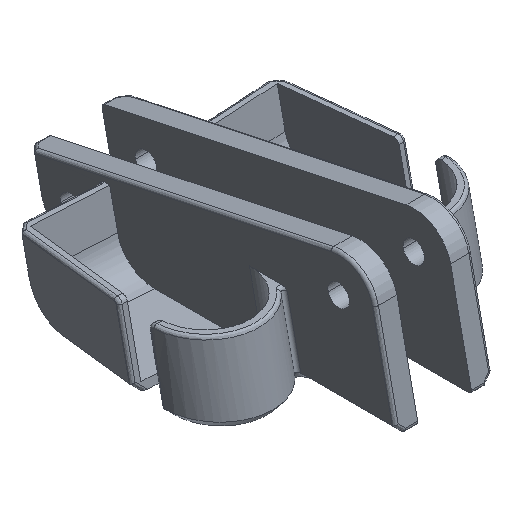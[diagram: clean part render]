
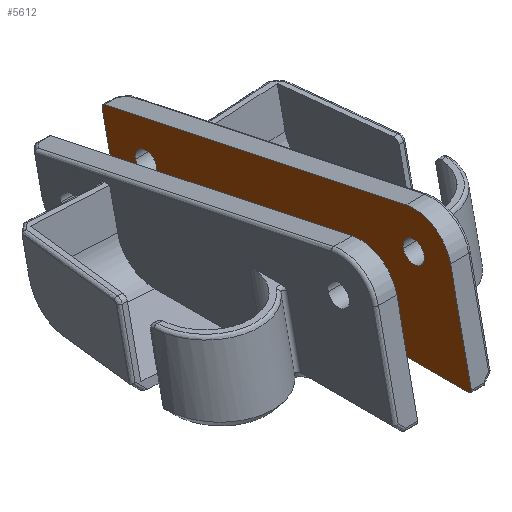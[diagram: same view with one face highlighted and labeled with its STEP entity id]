
A CAD part, isometric view. The second image highlights one B-rep face of the part: STEP entity #5612.
In plain terms, the highlighted planar face has unit normal (-1, 0, 0).
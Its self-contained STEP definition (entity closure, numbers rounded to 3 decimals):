
#95 = CARTESIAN_POINT ( 'NONE',  ( 5., -30.459, 0. ) ) ;
#166 = VERTEX_POINT ( 'NONE', #4388 ) ;
#255 = LINE ( 'NONE', #1095, #5118 ) ;
#261 = EDGE_CURVE ( 'NONE', #280, #3705, #5862, .T. ) ;
#280 = VERTEX_POINT ( 'NONE', #4541 ) ;
#313 = EDGE_CURVE ( 'NONE', #2772, #4215, #974, .T. ) ;
#343 = VERTEX_POINT ( 'NONE', #3943 ) ;
#377 = FACE_OUTER_BOUND ( 'NONE', #1346, .T. ) ;
#387 = CARTESIAN_POINT ( 'NONE',  ( 5., 27.888, 7.415 ) ) ;
#460 = CIRCLE ( 'NONE', #5196, 2. ) ;
#496 = CARTESIAN_POINT ( 'NONE',  ( 5., -30.297, 0. ) ) ;
#604 = DIRECTION ( 'NONE',  ( 0., 0.978, -0.208 ) ) ;
#614 = DIRECTION ( 'NONE',  ( 1., 0., 0. ) ) ;
#647 = ORIENTED_EDGE ( 'NONE', *, *, #3650, .T. ) ;
#648 = CARTESIAN_POINT ( 'NONE',  ( 5., 20.319, -71.612 ) ) ;
#652 = CARTESIAN_POINT ( 'NONE',  ( 5., 37.744, 12.48 ) ) ;
#700 = CARTESIAN_POINT ( 'NONE',  ( 5., 20.319, -71.612 ) ) ;
#800 = CARTESIAN_POINT ( 'NONE',  ( 5., 37.863, 12.397 ) ) ;
#953 = LINE ( 'NONE', #4380, #1885 ) ;
#974 = CIRCLE ( 'NONE', #1043, 2. ) ;
#1025 = CARTESIAN_POINT ( 'NONE',  ( 5., -30.297, 0. ) ) ;
#1029 = EDGE_CURVE ( 'NONE', #5134, #2914, #2764, .T. ) ;
#1043 = AXIS2_PLACEMENT_3D ( 'NONE', #5311, #2560, #5769 ) ;
#1085 = DIRECTION ( 'NONE',  ( 0., -0.978, 0.208 ) ) ;
#1095 = CARTESIAN_POINT ( 'NONE',  ( 5., 38.145, 12.394 ) ) ;
#1186 = EDGE_CURVE ( 'NONE', #3556, #4050, #4919, .T. ) ;
#1226 = EDGE_CURVE ( 'NONE', #4215, #2772, #2317, .T. ) ;
#1245 = CIRCLE ( 'NONE', #4522, 7. ) ;
#1246 = CARTESIAN_POINT ( 'NONE',  ( 5., 38.06, 11.995 ) ) ;
#1323 = ORIENTED_EDGE ( 'NONE', *, *, #1029, .T. ) ;
#1346 = EDGE_LOOP ( 'NONE', ( #4234, #5498, #647, #1565, #1706, #1603, #2155, #3417 ) ) ;
#1367 = EDGE_CURVE ( 'NONE', #166, #3134, #255, .T. ) ;
#1478 = CARTESIAN_POINT ( 'NONE',  ( 5., -30.835, 0.46 ) ) ;
#1516 = VECTOR ( 'NONE', #4762, 1000. ) ;
#1565 = ORIENTED_EDGE ( 'NONE', *, *, #2053, .T. ) ;
#1566 = DIRECTION ( 'NONE',  ( -1., 0., 0. ) ) ;
#1578 = FACE_BOUND ( 'NONE', #5356, .T. ) ;
#1603 = ORIENTED_EDGE ( 'NONE', *, *, #5226, .T. ) ;
#1614 = AXIS2_PLACEMENT_3D ( 'NONE', #3367, #614, #3813 ) ;
#1706 = ORIENTED_EDGE ( 'NONE', *, *, #1367, .T. ) ;
#1777 = CARTESIAN_POINT ( 'NONE',  ( 5., 29.845, 7. ) ) ;
#1805 = EDGE_CURVE ( 'NONE', #2914, #5134, #460, .T. ) ;
#1885 = VECTOR ( 'NONE', #5198, 1000. ) ;
#1899 = CARTESIAN_POINT ( 'NONE',  ( 5., 20.319, 0. ) ) ;
#2053 = EDGE_CURVE ( 'NONE', #2186, #166, #1245, .T. ) ;
#2090 = PLANE ( 'NONE',  #5958 ) ;
#2155 = ORIENTED_EDGE ( 'NONE', *, *, #4035, .F. ) ;
#2186 = VERTEX_POINT ( 'NONE', #5843 ) ;
#2230 = DIRECTION ( 'NONE',  ( 0., -0.978, 0.208 ) ) ;
#2282 = CARTESIAN_POINT ( 'NONE',  ( 5., -30.593, 0.064 ) ) ;
#2317 = CIRCLE ( 'NONE', #1614, 2. ) ;
#2392 = DIRECTION ( 'NONE',  ( 1., 0., 0. ) ) ;
#2543 = DIRECTION ( 'NONE',  ( 1., 0., 0. ) ) ;
#2560 = DIRECTION ( 'NONE',  ( 1., 0., 0. ) ) ;
#2764 = CIRCLE ( 'NONE', #3883, 2. ) ;
#2772 = VERTEX_POINT ( 'NONE', #4182 ) ;
#2789 = ORIENTED_EDGE ( 'NONE', *, *, #313, .T. ) ;
#2810 = CARTESIAN_POINT ( 'NONE',  ( 5., 29.845, 7. ) ) ;
#2914 = VERTEX_POINT ( 'NONE', #387 ) ;
#2972 = LINE ( 'NONE', #1899, #5392 ) ;
#3093 = CARTESIAN_POINT ( 'NONE',  ( 5., 37.592, 12.512 ) ) ;
#3134 = VERTEX_POINT ( 'NONE', #5344 ) ;
#3367 = CARTESIAN_POINT ( 'NONE',  ( 5., -20.045, 17.587 ) ) ;
#3417 = ORIENTED_EDGE ( 'NONE', *, *, #261, .T. ) ;
#3454 = CARTESIAN_POINT ( 'NONE',  ( 5., -20.045, 17.587 ) ) ;
#3556 = VERTEX_POINT ( 'NONE', #496 ) ;
#3650 = EDGE_CURVE ( 'NONE', #4050, #2186, #953, .T. ) ;
#3705 = VERTEX_POINT ( 'NONE', #5829 ) ;
#3813 = DIRECTION ( 'NONE',  ( 0., -0.978, 0.208 ) ) ;
#3856 = DIRECTION ( 'NONE',  ( -1., 0., 0. ) ) ;
#3883 = AXIS2_PLACEMENT_3D ( 'NONE', #1777, #4968, #2230 ) ;
#3900 = EDGE_LOOP ( 'NONE', ( #5732, #2789 ) ) ;
#3943 = CARTESIAN_POINT ( 'NONE',  ( 5., 38.028, 11.841 ) ) ;
#3966 = LINE ( 'NONE', #648, #1516 ) ;
#3997 = CARTESIAN_POINT ( 'NONE',  ( 5., 38.034, 12.137 ) ) ;
#4024 = FACE_BOUND ( 'NONE', #3900, .T. ) ;
#4035 = EDGE_CURVE ( 'NONE', #280, #343, #3966, .T. ) ;
#4050 = VERTEX_POINT ( 'NONE', #5239 ) ;
#4182 = CARTESIAN_POINT ( 'NONE',  ( 5., -18.088, 17.172 ) ) ;
#4215 = VERTEX_POINT ( 'NONE', #5778 ) ;
#4225 = AXIS2_PLACEMENT_3D ( 'NONE', #2810, #1566, #4771 ) ;
#4231 = CARTESIAN_POINT ( 'NONE',  ( 5., -30.8, 0.317 ) ) ;
#4234 = ORIENTED_EDGE ( 'NONE', *, *, #4381, .F. ) ;
#4380 = CARTESIAN_POINT ( 'NONE',  ( 5., -43.266, -58.12 ) ) ;
#4381 = EDGE_CURVE ( 'NONE', #3556, #3705, #2972, .T. ) ;
#4388 = CARTESIAN_POINT ( 'NONE',  ( 5., -18.591, 24.434 ) ) ;
#4455 = CARTESIAN_POINT ( 'NONE',  ( 5., 38.028, 11.841 ) ) ;
#4522 = AXIS2_PLACEMENT_3D ( 'NONE', #3454, #3856, #1085 ) ;
#4541 = CARTESIAN_POINT ( 'NONE',  ( 5., 36.692, 5.547 ) ) ;
#4693 = CARTESIAN_POINT ( 'NONE',  ( 5., -30.8, 0.622 ) ) ;
#4762 = DIRECTION ( 'NONE',  ( 0., 0.208, 0.978 ) ) ;
#4771 = DIRECTION ( 'NONE',  ( 0., -0.978, 0.208 ) ) ;
#4830 = B_SPLINE_CURVE_WITH_KNOTS ( 'NONE', 3,
 ( #3093, #652, #800, #3997, #1246, #4455 ),
 .UNSPECIFIED., .F., .F.,
 ( 4, 2, 4 ),
 ( 0., 0.5, 1. ),
 .UNSPECIFIED. ) ;
#4919 = B_SPLINE_CURVE_WITH_KNOTS ( 'NONE', 3,
 ( #1025, #95, #2282, #4231, #1478, #4693 ),
 .UNSPECIFIED., .F., .F.,
 ( 4, 2, 4 ),
 ( 0., 0.5, 1. ),
 .UNSPECIFIED. ) ;
#4968 = DIRECTION ( 'NONE',  ( 1., 0., 0. ) ) ;
#5118 = VECTOR ( 'NONE', #604, 1000. ) ;
#5134 = VERTEX_POINT ( 'NONE', #5641 ) ;
#5143 = CARTESIAN_POINT ( 'NONE',  ( 5., 29.845, 7. ) ) ;
#5196 = AXIS2_PLACEMENT_3D ( 'NONE', #5143, #2392, #5610 ) ;
#5198 = DIRECTION ( 'NONE',  ( 0., 0.208, 0.978 ) ) ;
#5226 = EDGE_CURVE ( 'NONE', #3134, #343, #4830, .T. ) ;
#5239 = CARTESIAN_POINT ( 'NONE',  ( 5., -30.8, 0.622 ) ) ;
#5311 = CARTESIAN_POINT ( 'NONE',  ( 5., -20.045, 17.587 ) ) ;
#5344 = CARTESIAN_POINT ( 'NONE',  ( 5., 37.592, 12.512 ) ) ;
#5356 = EDGE_LOOP ( 'NONE', ( #5704, #1323 ) ) ;
#5392 = VECTOR ( 'NONE', #5563, 1000. ) ;
#5498 = ORIENTED_EDGE ( 'NONE', *, *, #1186, .T. ) ;
#5563 = DIRECTION ( 'NONE',  ( 0., 1., 0. ) ) ;
#5610 = DIRECTION ( 'NONE',  ( 0., -0.978, 0.208 ) ) ;
#5612 = ADVANCED_FACE ( 'NONE', ( #1578, #4024, #377 ), #2090, .F. ) ;
#5641 = CARTESIAN_POINT ( 'NONE',  ( 5., 31.801, 6.585 ) ) ;
#5704 = ORIENTED_EDGE ( 'NONE', *, *, #1805, .T. ) ;
#5732 = ORIENTED_EDGE ( 'NONE', *, *, #1226, .T. ) ;
#5758 = DIRECTION ( 'NONE',  ( 0., -0.978, 0.208 ) ) ;
#5769 = DIRECTION ( 'NONE',  ( 0., -0.978, 0.208 ) ) ;
#5778 = CARTESIAN_POINT ( 'NONE',  ( 5., -22.001, 18.002 ) ) ;
#5829 = CARTESIAN_POINT ( 'NONE',  ( 5., 29.845, 0. ) ) ;
#5843 = CARTESIAN_POINT ( 'NONE',  ( 5., -26.892, 19.04 ) ) ;
#5862 = CIRCLE ( 'NONE', #4225, 7. ) ;
#5958 = AXIS2_PLACEMENT_3D ( 'NONE', #700, #2543, #5758 ) ;
